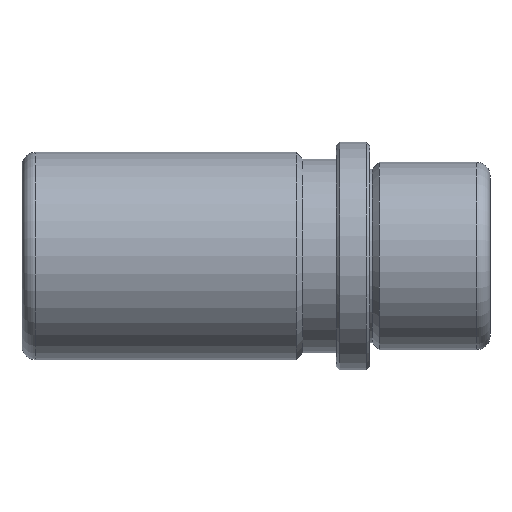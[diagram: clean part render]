
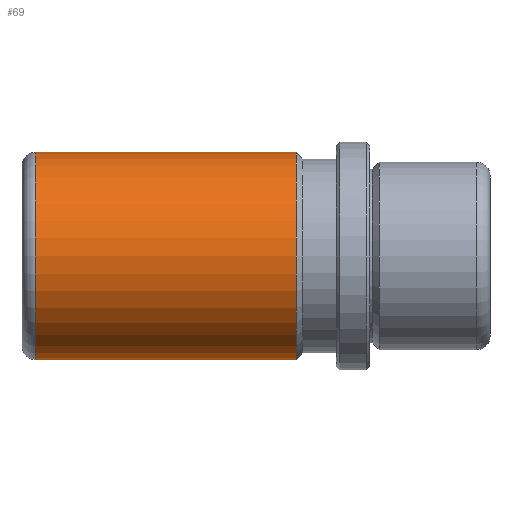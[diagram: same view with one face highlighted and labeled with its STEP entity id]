
A CAD part, front view. The second image highlights one B-rep face of the part: STEP entity #69.
In plain terms, the highlighted cylindrical face has radius 15.5 mm (diameter 31 mm), a full revolution.
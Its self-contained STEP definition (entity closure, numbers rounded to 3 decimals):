
#69 = ADVANCED_FACE( '', ( #153, #154, #155 ), #156, .T. );
#153 = FACE_OUTER_BOUND( '', #246, .T. );
#154 = FACE_BOUND( '', #247, .T. );
#155 = FACE_OUTER_BOUND( '', #248, .T. );
#156 = CYLINDRICAL_SURFACE( '', #249, 15.5 );
#246 = EDGE_LOOP( '', ( #357 ) );
#247 = EDGE_LOOP( '', ( #358 ) );
#248 = EDGE_LOOP( '', ( #359 ) );
#249 = AXIS2_PLACEMENT_3D( '', #360, #361, #362 );
#357 = ORIENTED_EDGE( '', *, *, #413, .T. );
#358 = ORIENTED_EDGE( '', *, *, #439, .T. );
#359 = ORIENTED_EDGE( '', *, *, #428, .F. );
#360 = CARTESIAN_POINT( '', ( 18., 0., 0. ) );
#361 = DIRECTION( '', ( -1., 0., 0. ) );
#362 = DIRECTION( '', ( 0., 0., -1. ) );
#413 = EDGE_CURVE( '', #457, #457, #458, .T. );
#428 = EDGE_CURVE( '', #480, #480, #481, .T. );
#439 = EDGE_CURVE( '', #498, #498, #499, .T. );
#457 = VERTEX_POINT( '', #522 );
#458 = CIRCLE( '', #523, 15.5 );
#480 = VERTEX_POINT( '', #545 );
#481 = CIRCLE( '', #546, 15.5 );
#498 = VERTEX_POINT( '', #620 );
#499 = B_SPLINE_CURVE_WITH_KNOTS( '', 3, ( #621, #622, #623, #624, #625, #626, #627, #628, #629, #630, #631, #632, #633, #634, #635, #636, #637, #638, #639, #640, #641, #642, #643, #644, #645, #646, #647, #648, #649, #650, #651, #652, #653, #654, #655, #656, #657, #658, #659, #660, #661, #662, #663, #664, #665, #666, #667, #668, #669, #670, #671, #672, #673, #674, #675, #676, #677, #678, #679, #680 ), .UNSPECIFIED., .T., .F., ( 2, 2, 2, 2, 2, 2, 2, 2, 2, 2, 2, 2, 2, 2, 2, 2, 2, 2, 2, 2, 2, 2, 2, 2, 2, 2, 2, 2, 2, 2, 2, 2 ), ( 0., 0., 0., 0.001, 0.001, 0.002, 0.003, 0.003, 0.004, 0.004, 0.005, 0.005, 0.006, 0.006, 0.007, 0.007, 0.008, 0.009, 0.009, 0.01, 0.01, 0.011, 0.011, 0.012, 0.012, 0.013, 0.013, 0.013, 0.014, 0.015, 0.015, 0.016 ), .UNSPECIFIED. );
#522 = CARTESIAN_POINT( '', ( -50., 0., -15.5 ) );
#523 = AXIS2_PLACEMENT_3D( '', #703, #704, #705 );
#545 = CARTESIAN_POINT( '', ( -11., 0., -15.5 ) );
#546 = AXIS2_PLACEMENT_3D( '', #727, #728, #729 );
#620 = CARTESIAN_POINT( '', ( -18., 15.304, -2.459 ) );
#621 = CARTESIAN_POINT( '', ( -18.163, 15.304, -2.459 ) );
#622 = CARTESIAN_POINT( '', ( -17.837, 15.304, -2.459 ) );
#623 = CARTESIAN_POINT( '', ( -17.677, 15.306, -2.443 ) );
#624 = CARTESIAN_POINT( '', ( -17.363, 15.316, -2.38 ) );
#625 = CARTESIAN_POINT( '', ( -17.207, 15.324, -2.333 ) );
#626 = CARTESIAN_POINT( '', ( -16.909, 15.342, -2.209 ) );
#627 = CARTESIAN_POINT( '', ( -16.768, 15.353, -2.133 ) );
#628 = CARTESIAN_POINT( '', ( -16.501, 15.376, -1.955 ) );
#629 = CARTESIAN_POINT( '', ( -16.375, 15.389, -1.851 ) );
#630 = CARTESIAN_POINT( '', ( -16.035, 15.428, -1.512 ) );
#631 = CARTESIAN_POINT( '', ( -15.852, 15.453, -1.238 ) );
#632 = CARTESIAN_POINT( '', ( -15.668, 15.48, -0.794 ) );
#633 = CARTESIAN_POINT( '', ( -15.621, 15.488, -0.639 ) );
#634 = CARTESIAN_POINT( '', ( -15.557, 15.497, -0.322 ) );
#635 = CARTESIAN_POINT( '', ( -15.542, 15.5, -0.162 ) );
#636 = CARTESIAN_POINT( '', ( -15.541, 15.5, 0.159 ) );
#637 = CARTESIAN_POINT( '', ( -15.557, 15.497, 0.322 ) );
#638 = CARTESIAN_POINT( '', ( -15.62, 15.488, 0.638 ) );
#639 = CARTESIAN_POINT( '', ( -15.667, 15.481, 0.791 ) );
#640 = CARTESIAN_POINT( '', ( -15.79, 15.462, 1.089 ) );
#641 = CARTESIAN_POINT( '', ( -15.867, 15.451, 1.233 ) );
#642 = CARTESIAN_POINT( '', ( -16.045, 15.428, 1.499 ) );
#643 = CARTESIAN_POINT( '', ( -16.147, 15.415, 1.623 ) );
#644 = CARTESIAN_POINT( '', ( -16.376, 15.389, 1.852 ) );
#645 = CARTESIAN_POINT( '', ( -16.499, 15.377, 1.954 ) );
#646 = CARTESIAN_POINT( '', ( -16.765, 15.353, 2.132 ) );
#647 = CARTESIAN_POINT( '', ( -16.909, 15.342, 2.209 ) );
#648 = CARTESIAN_POINT( '', ( -17.207, 15.324, 2.333 ) );
#649 = CARTESIAN_POINT( '', ( -17.36, 15.316, 2.379 ) );
#650 = CARTESIAN_POINT( '', ( -17.675, 15.306, 2.442 ) );
#651 = CARTESIAN_POINT( '', ( -17.838, 15.304, 2.458 ) );
#652 = CARTESIAN_POINT( '', ( -18.32, 15.304, 2.459 ) );
#653 = CARTESIAN_POINT( '', ( -18.644, 15.314, 2.394 ) );
#654 = CARTESIAN_POINT( '', ( -19.088, 15.342, 2.21 ) );
#655 = CARTESIAN_POINT( '', ( -19.231, 15.353, 2.134 ) );
#656 = CARTESIAN_POINT( '', ( -19.5, 15.377, 1.955 ) );
#657 = CARTESIAN_POINT( '', ( -19.623, 15.389, 1.853 ) );
#658 = CARTESIAN_POINT( '', ( -19.85, 15.415, 1.627 ) );
#659 = CARTESIAN_POINT( '', ( -19.954, 15.428, 1.501 ) );
#660 = CARTESIAN_POINT( '', ( -20.132, 15.451, 1.234 ) );
#661 = CARTESIAN_POINT( '', ( -20.208, 15.462, 1.093 ) );
#662 = CARTESIAN_POINT( '', ( -20.332, 15.48, 0.795 ) );
#663 = CARTESIAN_POINT( '', ( -20.379, 15.488, 0.639 ) );
#664 = CARTESIAN_POINT( '', ( -20.442, 15.497, 0.325 ) );
#665 = CARTESIAN_POINT( '', ( -20.458, 15.5, 0.164 ) );
#666 = CARTESIAN_POINT( '', ( -20.459, 15.5, -0.16 ) );
#667 = CARTESIAN_POINT( '', ( -20.443, 15.497, -0.32 ) );
#668 = CARTESIAN_POINT( '', ( -20.38, 15.488, -0.635 ) );
#669 = CARTESIAN_POINT( '', ( -20.333, 15.48, -0.792 ) );
#670 = CARTESIAN_POINT( '', ( -20.21, 15.462, -1.089 ) );
#671 = CARTESIAN_POINT( '', ( -20.135, 15.452, -1.23 ) );
#672 = CARTESIAN_POINT( '', ( -19.956, 15.428, -1.498 ) );
#673 = CARTESIAN_POINT( '', ( -19.853, 15.415, -1.624 ) );
#674 = CARTESIAN_POINT( '', ( -19.514, 15.377, -1.964 ) );
#675 = CARTESIAN_POINT( '', ( -19.24, 15.351, -2.147 ) );
#676 = CARTESIAN_POINT( '', ( -18.796, 15.324, -2.331 ) );
#677 = CARTESIAN_POINT( '', ( -18.641, 15.316, -2.379 ) );
#678 = CARTESIAN_POINT( '', ( -18.323, 15.306, -2.443 ) );
#679 = CARTESIAN_POINT( '', ( -18.163, 15.304, -2.459 ) );
#680 = CARTESIAN_POINT( '', ( -17.837, 15.304, -2.459 ) );
#703 = CARTESIAN_POINT( '', ( -50., 0., 0. ) );
#704 = DIRECTION( '', ( 1., 0., 0. ) );
#705 = DIRECTION( '', ( 0., 0., -1. ) );
#727 = CARTESIAN_POINT( '', ( -11., 0., 0. ) );
#728 = DIRECTION( '', ( 1., 0., 0. ) );
#729 = DIRECTION( '', ( 0., 0., -1. ) );
